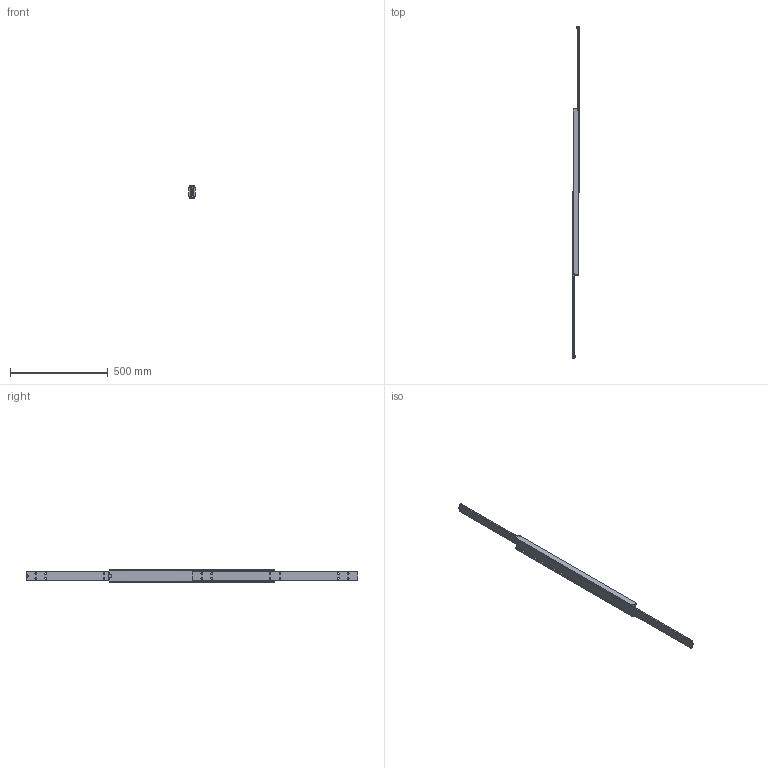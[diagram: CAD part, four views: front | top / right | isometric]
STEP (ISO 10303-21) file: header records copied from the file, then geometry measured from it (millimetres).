
FILE_DESCRIPTION(/* description */ (''),/* implementation_level */ '2;1');
FILE_NAME(/* name */ 'D:\Zeichnungen Schienen Komplett\MX-DTP70\MX-DTP70.085\MX-DTP70.085_ausgefahren.step',/* time_stamp */ '2022-03-03T13:31:20+01:00',/* author */ ('zmile'),/* organization */ (''),/* preprocessor_version */ 'ST-DEVELOPER v16.13',/* originating_system */ 'AutoCAD Mechanical',/* authorisation */ '');
FILE_SCHEMA (('AUTOMOTIVE_DESIGN { 1 0 10303 214 3 1 1 }'));
Length unit declared in the file: millimetre
Products named in the file (1): Product
Bounding box: 32 x 1700 x 70.6 mm (x, y, z)
Volume: 1449217.5 mm3; surface area: 538575.1 mm2
Topology: 59 solids, 63 shells, 306 faces, 950 edges, 666 vertices
Faces by surface type: plane 124, cylinder 60, sphere 56, bspline 50, torus 12, cone 4
Full cylindrical faces by diameter (mm): 8 x24, 13 x2
Entity records: 13521 total; most frequent: CARTESIAN_POINT 5723, ORIENTED_EDGE 1424, DIRECTION 1414, EDGE_CURVE 784, VERTEX_POINT 654, AXIS2_PLACEMENT_3D 559, EDGE_LOOP 528, FACE_OUTER_BOUND 306
